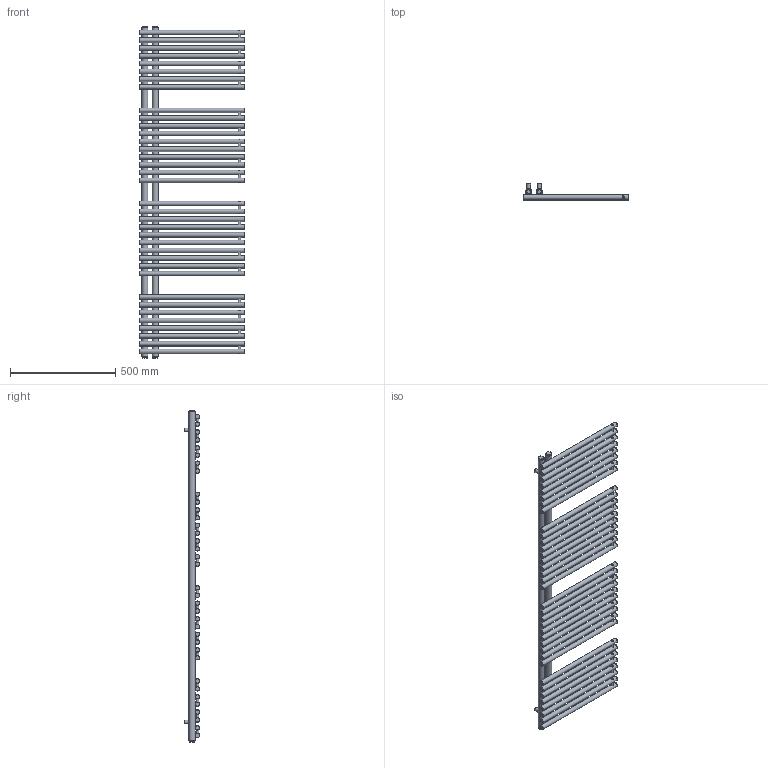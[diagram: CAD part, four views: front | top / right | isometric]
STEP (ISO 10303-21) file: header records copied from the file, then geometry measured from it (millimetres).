
FILE_DESCRIPTION(/* description */ (''),/* implementation_level */ '2;1');
FILE_NAME(/* name */ 'C:\Grzejniki\13DLUXRAD\łazienkowe\MODEL E\MODEL E 1567x500.iam.stp',/* time_stamp */ '2016-06-28T17:35:18+02:00',/* author */ ('m.szydziak'),/* organization */ (''),/* preprocessor_version */ 'ST-DEVELOPER v16.5',/* originating_system */ 'Autodesk Inventor 2017',/* authorisation */ '');
FILE_SCHEMA (('AUTOMOTIVE_DESIGN { 1 0 10303 214 3 1 1 }'));
Length unit declared in the file: millimetre
Products named in the file (7): MODEL E 1567x500; %%c30x1,5x1567; %%c22x1,2x500; uchwyt stały; zaślepka fi30 G0,5inch; korek; %%c18x1,5x54
Assembly tree (68 placements, depth 2):
  MODEL E 1567x500
    %%c30x1,5x1567  x2
    %%c22x1,2x500  x36
    uchwyt stały  x4
    zaślepka fi30 G0,5inch  x4
    korek  x4
    %%c18x1,5x54  x18
Bounding box: 500 x 74 x 1579 mm (x, y, z)
Volume: 1917693.7 mm3; surface area: 3035325.3 mm2
Topology: 68 solids, 104 shells, 468 faces, 956 edges, 700 vertices
Faces by surface type: plane 260, cylinder 208
Full cylindrical faces by diameter (mm): 9 x18, 10 x72, 12 x18, 15 x4, 18 x4, 18.631 x8, 19.6 x36, 22 x36, 24 x4, 27 x6, 30 x2
Entity records: 5361 total; most frequent: CARTESIAN_POINT 2926, DIRECTION 402, ORIENTED_EDGE 338, EDGE_LOOP 208, AXIS2_PLACEMENT_3D 189, EDGE_CURVE 169, VERTEX_POINT 157, FACE_BOUND 131
